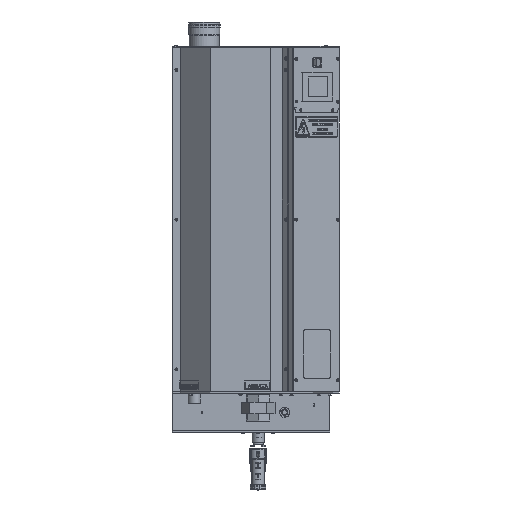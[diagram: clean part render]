
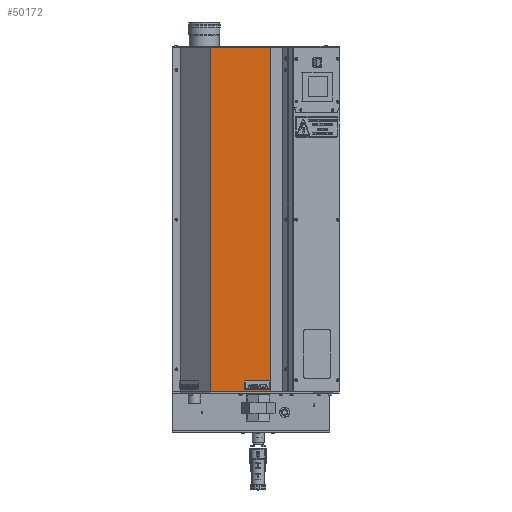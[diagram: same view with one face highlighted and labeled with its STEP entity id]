
A CAD part, top view. The second image highlights one B-rep face of the part: STEP entity #50172.
In plain terms, the highlighted planar face has unit normal (0, 0, 1).
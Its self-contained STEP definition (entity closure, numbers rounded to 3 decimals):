
#40 = FACE_OUTER_BOUND ( 'NONE', #8696, .T. ) ;
#796 = PLANE ( 'NONE',  #22188 ) ;
#5018 = DIRECTION ( 'NONE',  ( 0., -1., 0. ) ) ;
#8696 = EDGE_LOOP ( 'NONE', ( #36218, #25128, #43900, #16586 ) ) ;
#9757 = VECTOR ( 'NONE', #5018, 1000. ) ;
#9977 = VERTEX_POINT ( 'NONE', #36916 ) ;
#13390 = CARTESIAN_POINT ( 'NONE',  ( -127.468, -351.9, 227. ) ) ;
#15965 = VERTEX_POINT ( 'NONE', #48041 ) ;
#16586 = ORIENTED_EDGE ( 'NONE', *, *, #31787, .F. ) ;
#17990 = EDGE_CURVE ( 'NONE', #28837, #9977, #33182, .T. ) ;
#20184 = CARTESIAN_POINT ( 'NONE',  ( -127.468, 565.9, 227. ) ) ;
#22188 = AXIS2_PLACEMENT_3D ( 'NONE', #70535, #65505, #47876 ) ;
#22784 = DIRECTION ( 'NONE',  ( 0., -1., 0. ) ) ;
#25128 = ORIENTED_EDGE ( 'NONE', *, *, #26696, .T. ) ;
#26696 = EDGE_CURVE ( 'NONE', #31848, #28837, #29152, .T. ) ;
#27042 = CARTESIAN_POINT ( 'NONE',  ( -127.468, -351.9, 227. ) ) ;
#28517 = CARTESIAN_POINT ( 'NONE',  ( 33.449, 567., 227. ) ) ;
#28837 = VERTEX_POINT ( 'NONE', #13390 ) ;
#29152 = LINE ( 'NONE', #52493, #9757 ) ;
#31787 = EDGE_CURVE ( 'NONE', #15965, #9977, #57616, .T. ) ;
#31848 = VERTEX_POINT ( 'NONE', #47586 ) ;
#33182 = LINE ( 'NONE', #27042, #44306 ) ;
#36218 = ORIENTED_EDGE ( 'NONE', *, *, #66276, .F. ) ;
#36916 = CARTESIAN_POINT ( 'NONE',  ( 33.449, -351.9, 227. ) ) ;
#42468 = VECTOR ( 'NONE', #48514, 1000. ) ;
#43527 = DIRECTION ( 'NONE',  ( 1., 0., 0. ) ) ;
#43900 = ORIENTED_EDGE ( 'NONE', *, *, #17990, .T. ) ;
#44306 = VECTOR ( 'NONE', #43527, 1000. ) ;
#47586 = CARTESIAN_POINT ( 'NONE',  ( -127.468, 565.9, 227. ) ) ;
#47876 = DIRECTION ( 'NONE',  ( -1., 0., 0. ) ) ;
#48041 = CARTESIAN_POINT ( 'NONE',  ( 33.449, 565.9, 227. ) ) ;
#48514 = DIRECTION ( 'NONE',  ( 1., 0., 0. ) ) ;
#49265 = LINE ( 'NONE', #20184, #42468 ) ;
#50172 = ADVANCED_FACE ( 'NONE', ( #40 ), #796, .F. ) ;
#52493 = CARTESIAN_POINT ( 'NONE',  ( -127.468, 567., 227. ) ) ;
#57616 = LINE ( 'NONE', #28517, #70081 ) ;
#65505 = DIRECTION ( 'NONE',  ( 0., 0., -1. ) ) ;
#66276 = EDGE_CURVE ( 'NONE', #31848, #15965, #49265, .T. ) ;
#70081 = VECTOR ( 'NONE', #22784, 1000. ) ;
#70535 = CARTESIAN_POINT ( 'NONE',  ( -37.51, 567., 227. ) ) ;
